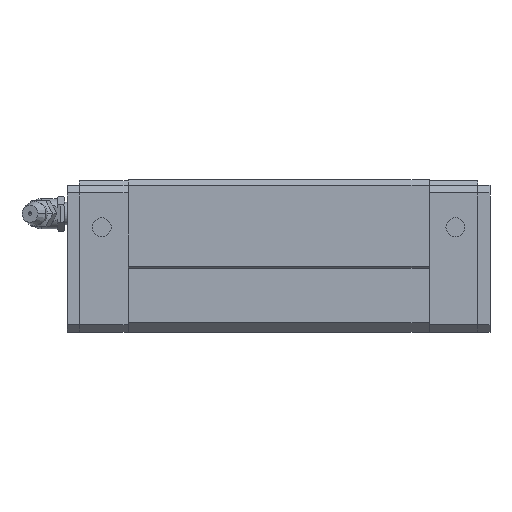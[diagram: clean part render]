
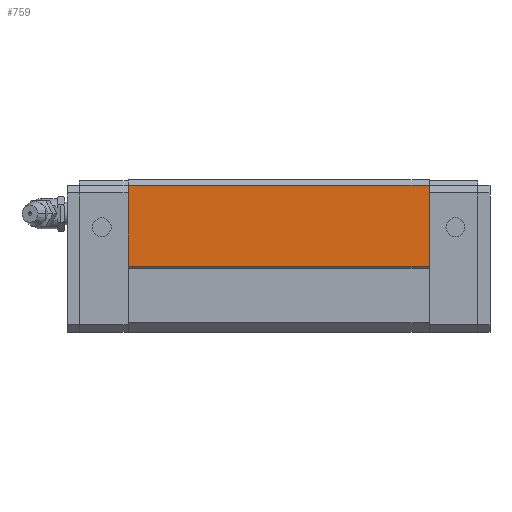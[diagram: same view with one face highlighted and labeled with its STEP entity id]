
A CAD part, front view. The second image highlights one B-rep face of the part: STEP entity #759.
In plain terms, the highlighted planar face has unit normal (0, -1, 0).
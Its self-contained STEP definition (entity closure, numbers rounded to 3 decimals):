
#698=CARTESIAN_POINT('POINT160',(96.2,-35.,
   17.5));
#699=VERTEX_POINT('VERTEX160',#698);
#706=CARTESIAN_POINT('POINT161',(16.2,-35.,
   17.5));
#707=VERTEX_POINT('VERTEX161',#706);
#708=CARTESIAN_POINT('POS187',(16.2,-35.,
   17.5));
#709=DIRECTION('DIR286',(1.,0.,0.));
#710=VECTOR('VEC88',#709,1.);
#711=LINE('STRAIGHT88',#708,#710);
#712=EDGE_CURVE('EDGE272',#707,#699,#711,.T.);
#729=CARTESIAN_POINT('POINT162',(96.2,-35.,
   39.));
#730=VERTEX_POINT('VERTEX162',#729);
#731=CARTESIAN_POINT('POS190',(96.2,-35.,39.
   ));
#732=DIRECTION('DIR290',(0.,0.,1.));
#733=VECTOR('VEC90',#732,1.);
#734=LINE('STRAIGHT90',#731,#733);
#735=EDGE_CURVE('EDGE274',#699,#730,#734,.T.);
#736=ORIENTED_EDGE('COEDGE531',*,*,#735,.T.);
#737=CARTESIAN_POINT('POINT163',(16.2,-35.,
   39.));
#738=VERTEX_POINT('VERTEX163',#737);
#739=CARTESIAN_POINT('POS191',(16.2,-35.,39.
   ));
#740=DIRECTION('DIR291',(1.,0.,0.));
#741=VECTOR('VEC91',#740,1.);
#742=LINE('STRAIGHT91',#739,#741);
#743=EDGE_CURVE('EDGE275',#738,#730,#742,.T.);
#744=ORIENTED_EDGE('COEDGE532',*,*,#743,.F.);
#745=CARTESIAN_POINT('POS192',(16.2,-35.,39.
   ));
#746=DIRECTION('DIR292',(0.,0.,-1.));
#747=VECTOR('VEC92',#746,1.);
#748=LINE('STRAIGHT92',#745,#747);
#749=EDGE_CURVE('EDGE276',#738,#707,#748,.T.);
#750=ORIENTED_EDGE('COEDGE533',*,*,#749,.T.);
#751=ORIENTED_EDGE('COEDGE534',*,*,#712,.T.);
#752=EDGE_LOOP('NONE',(#736,#744,#750,#751));
#753=FACE_BOUND('LOOP1',#752,.T.);
#754=CARTESIAN_POINT('POS193',(16.2,-35.,
   17.5));
#755=DIRECTION('DIR293',(0.,-1.,0.));
#756=DIRECTION('DIR294',(1.,0.,0.));
#757=AXIS2_PLACEMENT_3D('AXIS101',#754,#755,#756);
#758=PLANE('PLANE35',#757);
#759=ADVANCED_FACE('FACE129',(#753),#758,.T.);
